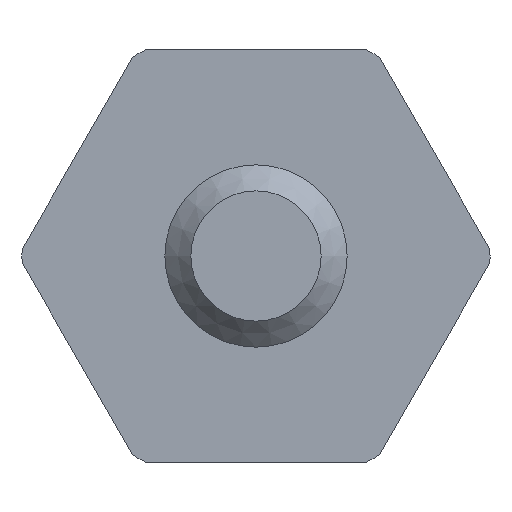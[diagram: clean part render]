
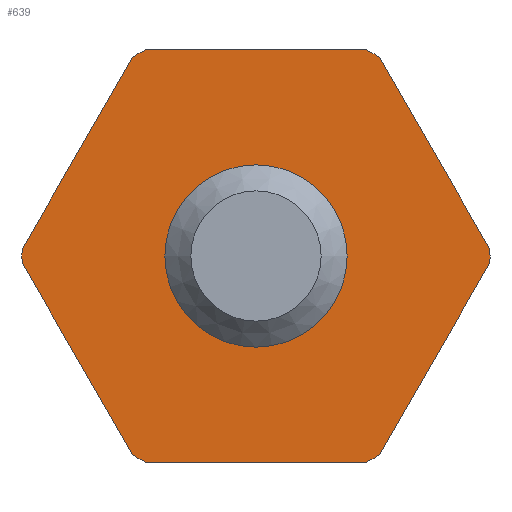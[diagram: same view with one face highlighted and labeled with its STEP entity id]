
A CAD part, left-side view. The second image highlights one B-rep face of the part: STEP entity #639.
In plain terms, the highlighted planar face has unit normal (-1, 0, 0).
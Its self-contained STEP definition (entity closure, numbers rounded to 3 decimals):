
#16=LINE($,#1042,#46);
#17=LINE($,#1044,#47);
#18=LINE($,#1048,#48);
#19=LINE($,#1052,#49);
#20=LINE($,#1056,#50);
#21=LINE($,#1060,#51);
#46=VECTOR($,#852,4.266);
#47=VECTOR($,#853,4.266);
#48=VECTOR($,#856,4.266);
#49=VECTOR($,#859,4.266);
#50=VECTOR($,#862,4.266);
#51=VECTOR($,#865,4.266);
#87=PLANE($,#712);
#120=FACE_BOUND($,#208,.T.);
#148=FACE_OUTER_BOUND($,#207,.T.);
#207=EDGE_LOOP($,(#459,#460,#461,#462,#463,#464,#465,#466,#467,#468,#469,
#470));
#208=EDGE_LOOP($,(#471));
#266=CIRCLE($,#711,4.5);
#267=CIRCLE($,#713,4.5);
#268=CIRCLE($,#714,4.5);
#269=CIRCLE($,#715,4.5);
#270=CIRCLE($,#716,4.5);
#271=CIRCLE($,#717,4.5);
#272=CIRCLE($,#718,1.266);
#310=VERTEX_POINT($,#1035);
#311=VERTEX_POINT($,#1037);
#312=VERTEX_POINT($,#1041);
#313=VERTEX_POINT($,#1043);
#314=VERTEX_POINT($,#1045);
#315=VERTEX_POINT($,#1047);
#316=VERTEX_POINT($,#1049);
#317=VERTEX_POINT($,#1051);
#318=VERTEX_POINT($,#1053);
#319=VERTEX_POINT($,#1055);
#320=VERTEX_POINT($,#1057);
#321=VERTEX_POINT($,#1059);
#322=VERTEX_POINT($,#1062);
#368=EDGE_CURVE($,#311,#310,#266,.T.);
#369=EDGE_CURVE($,#312,#310,#16,.T.);
#370=EDGE_CURVE($,#311,#313,#17,.T.);
#371=EDGE_CURVE($,#314,#313,#267,.T.);
#372=EDGE_CURVE($,#314,#315,#18,.T.);
#373=EDGE_CURVE($,#316,#315,#268,.T.);
#374=EDGE_CURVE($,#316,#317,#19,.T.);
#375=EDGE_CURVE($,#318,#317,#269,.T.);
#376=EDGE_CURVE($,#318,#319,#20,.T.);
#377=EDGE_CURVE($,#320,#319,#270,.T.);
#378=EDGE_CURVE($,#320,#321,#21,.T.);
#379=EDGE_CURVE($,#312,#321,#271,.T.);
#380=EDGE_CURVE($,#322,#322,#272,.T.);
#459=ORIENTED_EDGE($,*,*,#369,.T.);
#460=ORIENTED_EDGE($,*,*,#368,.F.);
#461=ORIENTED_EDGE($,*,*,#370,.T.);
#462=ORIENTED_EDGE($,*,*,#371,.F.);
#463=ORIENTED_EDGE($,*,*,#372,.T.);
#464=ORIENTED_EDGE($,*,*,#373,.F.);
#465=ORIENTED_EDGE($,*,*,#374,.T.);
#466=ORIENTED_EDGE($,*,*,#375,.F.);
#467=ORIENTED_EDGE($,*,*,#376,.T.);
#468=ORIENTED_EDGE($,*,*,#377,.F.);
#469=ORIENTED_EDGE($,*,*,#378,.T.);
#470=ORIENTED_EDGE($,*,*,#379,.F.);
#471=ORIENTED_EDGE($,*,*,#380,.T.);
#639=ADVANCED_FACE($,(#148,#120),#87,.T.);
#711=AXIS2_PLACEMENT_3D($,#1039,#848,#849);
#712=AXIS2_PLACEMENT_3D($,#1040,#850,#851);
#713=AXIS2_PLACEMENT_3D($,#1046,#854,#855);
#714=AXIS2_PLACEMENT_3D($,#1050,#857,#858);
#715=AXIS2_PLACEMENT_3D($,#1054,#860,#861);
#716=AXIS2_PLACEMENT_3D($,#1058,#863,#864);
#717=AXIS2_PLACEMENT_3D($,#1061,#866,#867);
#718=AXIS2_PLACEMENT_3D($,#1063,#868,#869);
#848=DIRECTION('center_axis',(1.,0.,0.));
#849=DIRECTION('ref_axis',(0.,0.,
-1.));
#850=DIRECTION('center_axis',(-1.,0.,0.));
#851=DIRECTION('ref_axis',(0.,0.,1.));
#852=DIRECTION($,(0.,0.5,-0.866));
#853=DIRECTION($,(0.,-0.5,-0.866));
#854=DIRECTION('center_axis',(1.,0.,0.));
#855=DIRECTION('ref_axis',(0.,0.,
-1.));
#856=DIRECTION($,(0.,-1.,0.));
#857=DIRECTION('center_axis',(1.,0.,0.));
#858=DIRECTION('ref_axis',(0.,0.,
-1.));
#859=DIRECTION($,(0.,-0.5,0.866));
#860=DIRECTION('center_axis',(1.,0.,0.));
#861=DIRECTION('ref_axis',(0.,0.,
-1.));
#862=DIRECTION($,(0.,0.5,0.866));
#863=DIRECTION('center_axis',(1.,0.,0.));
#864=DIRECTION('ref_axis',(0.,0.,
-1.));
#865=DIRECTION($,(0.,1.,0.));
#866=DIRECTION('center_axis',(1.,0.,0.));
#867=DIRECTION('ref_axis',(0.,0.,
-1.));
#868=DIRECTION('center_axis',(1.,0.,0.));
#869=DIRECTION('ref_axis',(0.,0.,
-1.));
#1035=CARTESIAN_POINT('',(-14.221,4.546,2.822));
#1037=CARTESIAN_POINT('',(-14.221,4.546,2.554));
#1039=CARTESIAN_POINT('Origin',(-14.221,0.048,2.688));
#1040=CARTESIAN_POINT('Origin',(-14.221,4.548,2.688));
#1041=CARTESIAN_POINT('',(-14.221,2.413,6.517));
#1042=CARTESIAN_POINT($,(-14.221,4.107,3.582));
#1043=CARTESIAN_POINT('',(-14.221,2.413,-1.14));
#1044=CARTESIAN_POINT($,(-14.221,3.977,1.568));
#1045=CARTESIAN_POINT('',(-14.221,2.181,-1.274));
#1046=CARTESIAN_POINT('Origin',(-14.221,0.048,2.688));
#1047=CARTESIAN_POINT('',(-14.221,-2.085,-1.274));
#1048=CARTESIAN_POINT($,(-14.221,2.167,-1.274));
#1049=CARTESIAN_POINT('',(-14.221,-2.317,-1.14));
#1050=CARTESIAN_POINT('Origin',(-14.221,0.048,2.688));
#1051=CARTESIAN_POINT('',(-14.221,-4.45,2.554));
#1052=CARTESIAN_POINT($,(-14.221,-2.886,-0.154));
#1053=CARTESIAN_POINT('',(-14.221,-4.45,2.822));
#1054=CARTESIAN_POINT('Origin',(-14.221,0.048,2.688));
#1055=CARTESIAN_POINT('',(-14.221,-2.317,6.517));
#1056=CARTESIAN_POINT($,(-14.221,-2.756,5.757));
#1057=CARTESIAN_POINT('',(-14.221,-2.085,6.651));
#1058=CARTESIAN_POINT('Origin',(-14.221,0.048,2.688));
#1059=CARTESIAN_POINT('',(-14.221,2.181,6.651));
#1060=CARTESIAN_POINT($,(-14.221,2.429,6.651));
#1061=CARTESIAN_POINT('Origin',(-14.221,0.048,2.688));
#1062=CARTESIAN_POINT('',(-14.221,1.314,2.688));
#1063=CARTESIAN_POINT('Origin',(-14.221,0.048,2.688));
